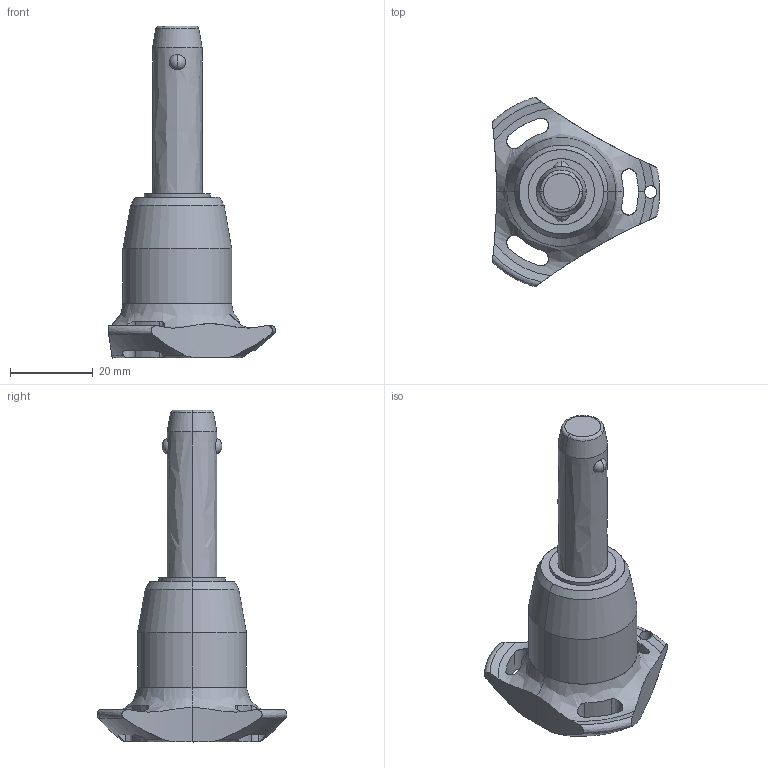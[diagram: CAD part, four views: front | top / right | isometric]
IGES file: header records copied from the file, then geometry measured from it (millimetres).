
Start section: SolidWorks IGES file using analytic representation for surfaces
Global section: file name: C:\Users\ianosborn\Desktop\QR1734_v2\QR1734_v2_20251113_IGES\QR1734.M12-030-S.igs; native system: SolidWorks 2019; preprocessor: SolidWorks 2019; author: IanOsborn; date: 251112.143011; units: millimetre
Bounding box: 40.5 x 45.88 x 80.3 mm (x, y, z)
Surface area: 7468.6 mm2 (no closed solid volume)
Topology: 0 solids, 0 shells, 65 faces, 1363 edges, 1359 vertices
Faces by surface type: revolution 50, bspline 15
